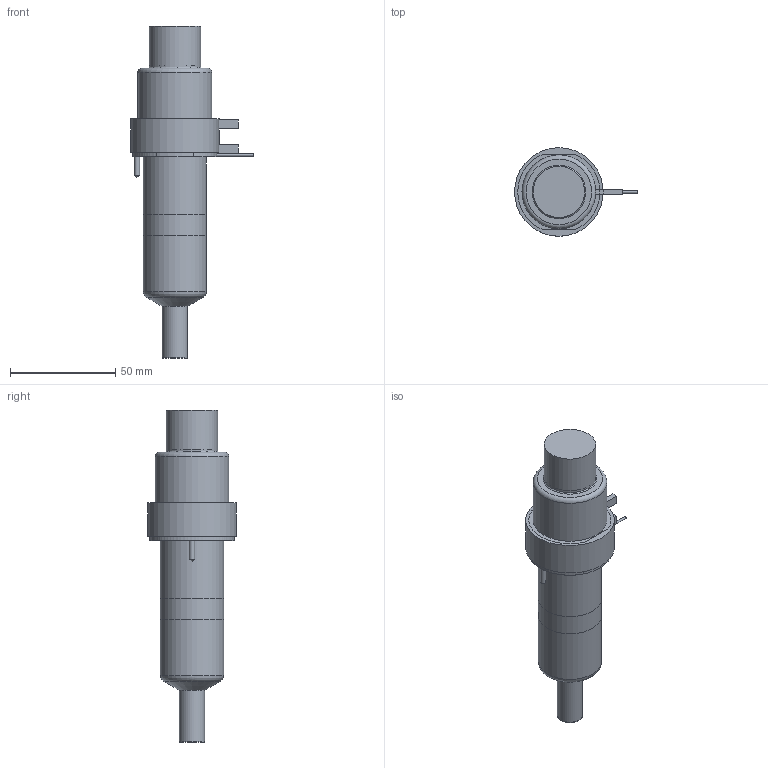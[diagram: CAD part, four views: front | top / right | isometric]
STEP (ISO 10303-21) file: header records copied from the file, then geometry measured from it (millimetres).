
FILE_DESCRIPTION(/* description */ (''),/* implementation_level */ '2;1');
FILE_NAME(/* name */ 'SXYCN16075N3U_200C_a',/* time_stamp */ '2016-03-04T13:29:03+13:00',/* author */ (''),/* organization */ (''),/* preprocessor_version */ 'ST-DEVELOPER v9',/* originating_system */ 'UGS - NX 4.0',/* authorisation */ '');
FILE_SCHEMA (('CONFIG_CONTROL_DESIGN'));
Length unit declared in the file: millimetre
Products named in the file (1): mattD74Dhegg
Bounding box: 58.25 x 42 x 157.47 mm (x, y, z)
Volume: 190622.5 mm3; surface area: 34140.2 mm2
Topology: 7 solids, 7 shells, 91 faces, 175 edges, 112 vertices
Faces by surface type: plane 45, cylinder 29, torus 8, cone 7, bspline 1, sphere 1
Full cylindrical faces by diameter (mm): 1 x3, 1.5 x1, 2.5 x2, 5 x1, 7 x1, 11.61 x1, 11.995 x2, 14.8 x1, 24 x1, 24.4 x1, 25.4 x1, 30 x2, 31.8 x1, 35 x1, 40 x1, 42 x1
Entity records: 2230 total; most frequent: CARTESIAN_POINT 435, DIRECTION 378, ORIENTED_EDGE 266, AXIS2_PLACEMENT_3D 164, EDGE_LOOP 140, EDGE_CURVE 133, VERTEX_POINT 106, ADVANCED_FACE 91
